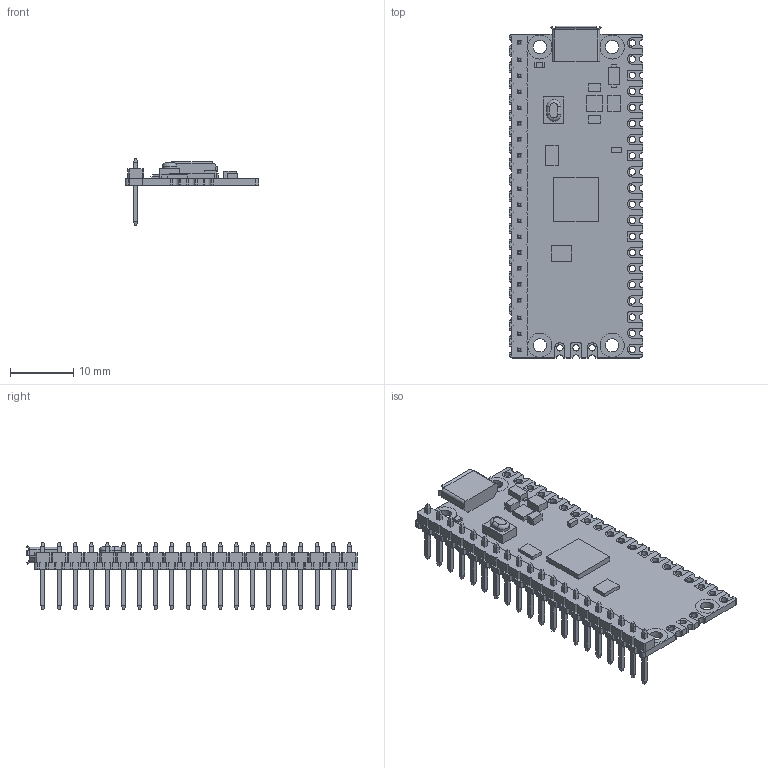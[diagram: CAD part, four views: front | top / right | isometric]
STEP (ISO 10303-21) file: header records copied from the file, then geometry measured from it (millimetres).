
FILE_DESCRIPTION(('FreeCAD Model'),'2;1');
FILE_NAME('Open CASCADE Shape Model','2025-05-08T09:28:45',( 'Peter S. Hollander'),('https://gitlab.com/recursivenomad/'), 'Open CASCADE STEP processor 7.6','FreeCAD','Unknown');
FILE_SCHEMA(('AUTOMOTIVE_DESIGN { 1 0 10303 214 1 1 1 1 }'));
Length unit declared in the file: millimetre
Products named in the file (3): RaspberryPi_Pico_AddedHeaders_H2.54mm_KiCad; RaspberryPi_Pico_Module_KiCad; RaspberryPi_Pico_Header_Breakaway_H2.54mm_KiCad
Bounding box: 21 x 52.3 x 10.53 mm (x, y, z)
Volume: 1522 mm3; surface area: 3556.6 mm2
Topology: 2 solids, 2 shells, 957 faces, 2591 edges, 1708 vertices
Faces by surface type: plane 833, cylinder 122, torus 2
Full cylindrical faces by diameter (mm): 1 x43, 2.1 x4
Entity records: 19995 total; most frequent: ORIENTED_EDGE 4512, CARTESIAN_POINT 3315, EDGE_CURVE 2591, LINE 1847, VERTEX_POINT 1708, FACE_BOUND 1121, EDGE_LOOP 1121, AXIS2_PLACEMENT_3D 981
